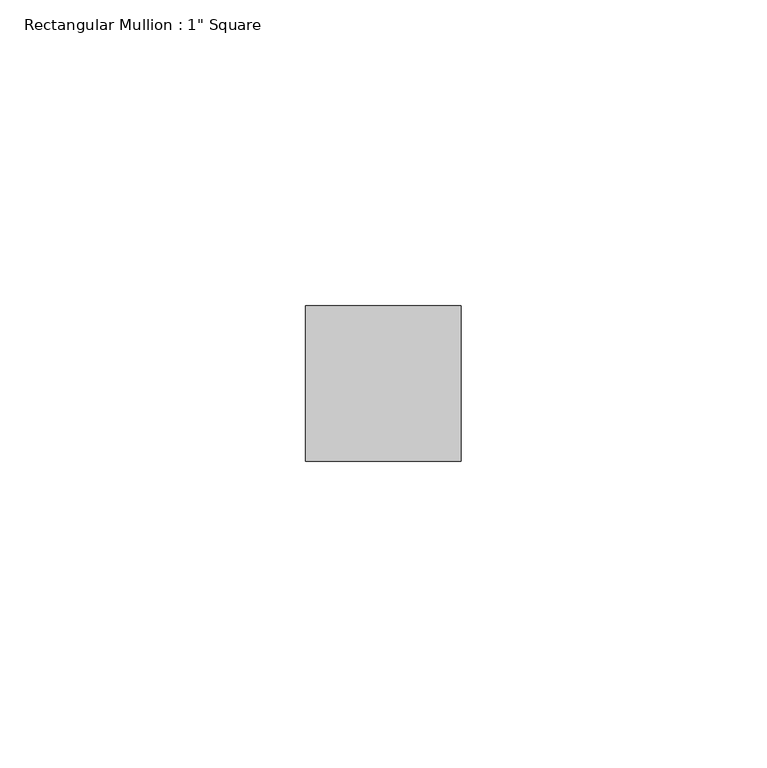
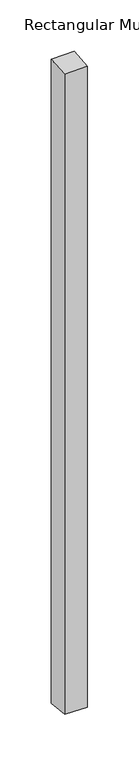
"""IFC4 building model written with IfcOpenShell, lengths in millimetres: member geometry."""

from ifc_helpers import new_model, si_unit, origin, place, context, project, spatial, faceted_brep, source, transform, mapped, element, save


def member_dc775c2f(model_context):
    return source(origin(), model_context, "Body", "Brep", [
        faceted_brep([(-25.4, 12.7, 0.547995), (0.0, 12.7, 1.0338684), (0.0, 12.7, -763.0338684), (-25.4, 12.7, -762.547995), (-25.4, -12.7, -1.5197418), (-25.4, -12.7, -760.4802582), (0.0, -12.7, -1.0338684), (0.0, -12.7, -760.9661316)], [[[0, 1, 2, 3]], [[4, 0, 3, 5]], [[6, 4, 5, 7]], [[1, 6, 7, 2]], [[1, 0, 4, 6]], [[2, 7, 5, 3]]]),
    ])


if __name__ == "__main__":
    model = new_model("IFC4")
    model_context = context("Model", 3, world=origin())
    ifc_project = project(units=[si_unit("LENGTHUNIT", "METRE", prefix="MILLI")], contexts=[model_context])
    site = spatial("IfcSite", under=ifc_project)
    building = spatial("IfcBuilding", under=site)
    placement = place(None, origin())
    member_shape = member_dc775c2f(model_context)
    element("IfcMember", 1, ObjectType="Rectangular Mullion : 1\" Square", at=placement, inside=building, context=model_context, shape_type="MappedRepresentation", body=[
        mapped(member_shape, transform((0.0, 0.0, 0.0), x_axis=(1.0, 0.0, 0.0), y_axis=(0.0, 1.0, 0.0), z_axis=(0.0, 0.0, 1.0))),
    ])
    save(model, "model.ifc")
